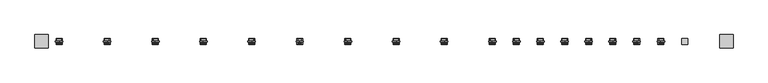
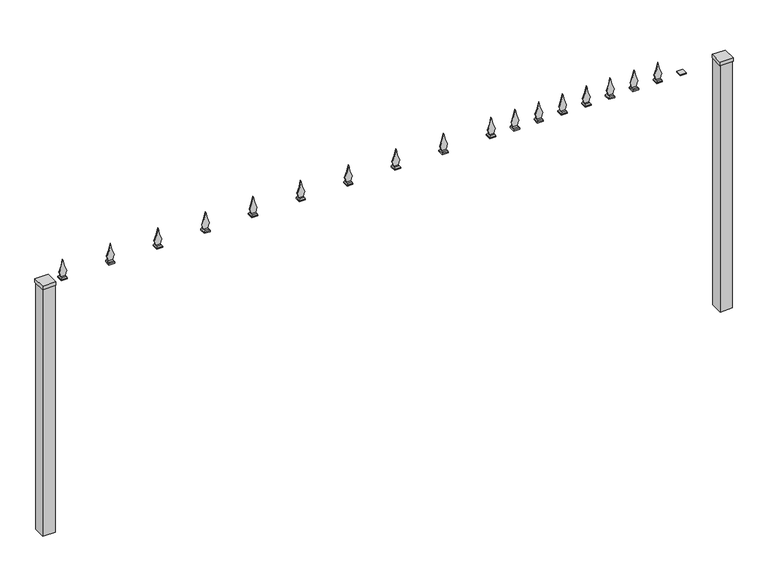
"""IFC4 building model written with IfcOpenShell, lengths in millimetres: geographic element geometry, Portail coulissant - 01 : Portail coulissant - 01."""

from ifc_helpers import new_model, si_unit, point, frame, frame_2d, origin, place, context, project, spatial, polyline, circle_curve, trimmed, segment, composite_curve, outline, extrude, faceted_brep, source, transform, mapped, element, save


def geographic_element_62fdb492(model_context):
    return source(origin(), model_context, "Body", "SolidModel", [
        extrude(outline(polyline([(1086.2264823, 12.0), (1086.2264823, -12.0), (1062.2264823, -12.0), (1062.2264823, 12.0), (1086.2264823, 12.0)])), frame((0.0, 0.0, 1080.0), z_axis=(0.0, 0.0, 1.0), x_axis=(1.0, 0.0, 0.0)), (0.0, 0.0, 1.0), 5.0),
        extrude(outline(composite_curve([segment(trimmed(circle_curve(frame_2d((1074.9252719, 881.9773887)), 87.884948), [point((1110.0, 962.5598156))], [point((1090.0, 968.5598156))], True, "CARTESIAN"), True, "CONTINUOUS"), segment(polyline([(1090.0, 968.5598156), (1090.0, 986.5598156)]), True, "CONTINUOUS"), segment(trimmed(circle_curve(frame_2d((1074.9252719, 1073.1422425)), 87.884948), [point((1090.0, 986.5598156))], [point((1110.0, 992.5598156))], True, "CARTESIAN"), True, "CONTINUOUS"), segment(trimmed(circle_curve(frame_2d((1184.2044665, 1149.0747041)), 173.2143562), [point((1110.0, 992.5598156))], [point((1160.0, 977.5598156))], True, "CARTESIAN"), True, "CONTINUOUS"), segment(trimmed(circle_curve(frame_2d((1184.2044665, 806.0449271)), 173.2143562), [point((1160.0, 977.5598156))], [point((1110.0, 962.5598156))], True, "CARTESIAN"), True, "CONTINUOUS")], self_intersect=False)), frame((0.0, -1.5, 0.0), z_axis=(0.0, 1.0, 0.0), x_axis=(0.0, 0.0, 1.0)), (0.0, 0.0, 1.0), 3.0),
        faceted_brep([(968.5598156, 9.0, 1090.0), (968.5598156, -9.0, 1090.0), (986.5598156, -9.0, 1090.0), (986.5598156, 9.0, 1090.0), (965.5598156, 12.0, 1085.0), (989.5598156, 12.0, 1085.0), (989.5598156, -12.0, 1085.0), (965.5598156, -12.0, 1085.0)], [[[0, 1, 2, 3]], [[4, 5, 6, 7]], [[4, 7, 1, 0]], [[7, 6, 2, 1]], [[6, 5, 3, 2]], [[5, 4, 0, 3]]]),
        extrude(outline(polyline([(989.5598156, 12.0), (989.5598156, -12.0), (965.5598156, -12.0), (965.5598156, 12.0), (989.5598156, 12.0)])), frame((0.0, 0.0, 1080.0), z_axis=(0.0, 0.0, 1.0), x_axis=(1.0, 0.0, 0.0)), (0.0, 0.0, 1.0), 5.0),
        extrude(outline(composite_curve([segment(trimmed(circle_curve(frame_2d((1074.9252719, 785.310722)), 87.884948), [point((1110.0, 865.8931489))], [point((1090.0, 871.8931489))], True, "CARTESIAN"), True, "CONTINUOUS"), segment(polyline([(1090.0, 871.8931489), (1090.0, 889.8931489)]), True, "CONTINUOUS"), segment(trimmed(circle_curve(frame_2d((1074.9252719, 976.4755759)), 87.884948), [point((1090.0, 889.8931489))], [point((1110.0, 895.8931489))], True, "CARTESIAN"), True, "CONTINUOUS"), segment(trimmed(circle_curve(frame_2d((1184.2044665, 1052.4080374)), 173.2143562), [point((1110.0, 895.8931489))], [point((1160.0, 880.8931489))], True, "CARTESIAN"), True, "CONTINUOUS"), segment(trimmed(circle_curve(frame_2d((1184.2044665, 709.3782604)), 173.2143562), [point((1160.0, 880.8931489))], [point((1110.0, 865.8931489))], True, "CARTESIAN"), True, "CONTINUOUS")], self_intersect=False)), frame((0.0, -1.5, 0.0), z_axis=(0.0, 1.0, 0.0), x_axis=(0.0, 0.0, 1.0)), (0.0, 0.0, 1.0), 3.0),
        faceted_brep([(871.8931489, 9.0, 1090.0), (871.8931489, -9.0, 1090.0), (889.8931489, -9.0, 1090.0), (889.8931489, 9.0, 1090.0), (868.8931489, 12.0, 1085.0), (892.8931489, 12.0, 1085.0), (892.8931489, -12.0, 1085.0), (868.8931489, -12.0, 1085.0)], [[[0, 1, 2, 3]], [[4, 5, 6, 7]], [[4, 7, 1, 0]], [[7, 6, 2, 1]], [[6, 5, 3, 2]], [[5, 4, 0, 3]]]),
        extrude(outline(polyline([(892.8931489, 12.0), (892.8931489, -12.0), (868.8931489, -12.0), (868.8931489, 12.0), (892.8931489, 12.0)])), frame((0.0, 0.0, 1080.0), z_axis=(0.0, 0.0, 1.0), x_axis=(1.0, 0.0, 0.0)), (0.0, 0.0, 1.0), 5.0),
        extrude(outline(composite_curve([segment(trimmed(circle_curve(frame_2d((1074.9252719, 688.6440554)), 87.884948), [point((1110.0, 769.2264823))], [point((1090.0, 775.2264823))], True, "CARTESIAN"), True, "CONTINUOUS"), segment(polyline([(1090.0, 775.2264823), (1090.0, 793.2264823)]), True, "CONTINUOUS"), segment(trimmed(circle_curve(frame_2d((1074.9252719, 879.8089092)), 87.884948), [point((1090.0, 793.2264823))], [point((1110.0, 799.2264823))], True, "CARTESIAN"), True, "CONTINUOUS"), segment(trimmed(circle_curve(frame_2d((1184.2044665, 955.7413708)), 173.2143562), [point((1110.0, 799.2264823))], [point((1160.0, 784.2264823))], True, "CARTESIAN"), True, "CONTINUOUS"), segment(trimmed(circle_curve(frame_2d((1184.2044665, 612.7115938)), 173.2143562), [point((1160.0, 784.2264823))], [point((1110.0, 769.2264823))], True, "CARTESIAN"), True, "CONTINUOUS")], self_intersect=False)), frame((0.0, -1.5, 0.0), z_axis=(0.0, 1.0, 0.0), x_axis=(0.0, 0.0, 1.0)), (0.0, 0.0, 1.0), 3.0),
        faceted_brep([(775.2264823, 9.0, 1090.0), (775.2264823, -9.0, 1090.0), (793.2264823, -9.0, 1090.0), (793.2264823, 9.0, 1090.0), (772.2264823, 12.0, 1085.0), (796.2264823, 12.0, 1085.0), (796.2264823, -12.0, 1085.0), (772.2264823, -12.0, 1085.0)], [[[0, 1, 2, 3]], [[4, 5, 6, 7]], [[4, 7, 1, 0]], [[7, 6, 2, 1]], [[6, 5, 3, 2]], [[5, 4, 0, 3]]]),
        extrude(outline(polyline([(796.2264823, 12.0), (796.2264823, -12.0), (772.2264823, -12.0), (772.2264823, 12.0), (796.2264823, 12.0)])), frame((0.0, 0.0, 1080.0), z_axis=(0.0, 0.0, 1.0), x_axis=(1.0, 0.0, 0.0)), (0.0, 0.0, 1.0), 5.0),
        extrude(outline(composite_curve([segment(trimmed(circle_curve(frame_2d((1074.9252719, 591.9773887)), 87.884948), [point((1110.0, 672.5598156))], [point((1090.0, 678.5598156))], True, "CARTESIAN"), True, "CONTINUOUS"), segment(polyline([(1090.0, 678.5598156), (1090.0, 696.5598156)]), True, "CONTINUOUS"), segment(trimmed(circle_curve(frame_2d((1074.9252719, 783.1422425)), 87.884948), [point((1090.0, 696.5598156))], [point((1110.0, 702.5598156))], True, "CARTESIAN"), True, "CONTINUOUS"), segment(trimmed(circle_curve(frame_2d((1184.2044665, 859.0747041)), 173.2143562), [point((1110.0, 702.5598156))], [point((1160.0, 687.5598156))], True, "CARTESIAN"), True, "CONTINUOUS"), segment(trimmed(circle_curve(frame_2d((1184.2044665, 516.0449271)), 173.2143562), [point((1160.0, 687.5598156))], [point((1110.0, 672.5598156))], True, "CARTESIAN"), True, "CONTINUOUS")], self_intersect=False)), frame((0.0, -1.5, 0.0), z_axis=(0.0, 1.0, 0.0), x_axis=(0.0, 0.0, 1.0)), (0.0, 0.0, 1.0), 3.0),
        faceted_brep([(678.5598156, 9.0, 1090.0), (678.5598156, -9.0, 1090.0), (696.5598156, -9.0, 1090.0), (696.5598156, 9.0, 1090.0), (675.5598156, 12.0, 1085.0), (699.5598156, 12.0, 1085.0), (699.5598156, -12.0, 1085.0), (675.5598156, -12.0, 1085.0)], [[[0, 1, 2, 3]], [[4, 5, 6, 7]], [[4, 7, 1, 0]], [[7, 6, 2, 1]], [[6, 5, 3, 2]], [[5, 4, 0, 3]]]),
        extrude(outline(polyline([(699.5598156, 12.0), (699.5598156, -12.0), (675.5598156, -12.0), (675.5598156, 12.0), (699.5598156, 12.0)])), frame((0.0, 0.0, 1080.0), z_axis=(0.0, 0.0, 1.0), x_axis=(1.0, 0.0, 0.0)), (0.0, 0.0, 1.0), 5.0),
        extrude(outline(composite_curve([segment(trimmed(circle_curve(frame_2d((1074.9252719, 495.310722)), 87.884948), [point((1110.0, 575.8931489))], [point((1090.0, 581.8931489))], True, "CARTESIAN"), True, "CONTINUOUS"), segment(polyline([(1090.0, 581.8931489), (1090.0, 599.8931489)]), True, "CONTINUOUS"), segment(trimmed(circle_curve(frame_2d((1074.9252719, 686.4755759)), 87.884948), [point((1090.0, 599.8931489))], [point((1110.0, 605.8931489))], True, "CARTESIAN"), True, "CONTINUOUS"), segment(trimmed(circle_curve(frame_2d((1184.2044665, 762.4080374)), 173.2143562), [point((1110.0, 605.8931489))], [point((1160.0, 590.8931489))], True, "CARTESIAN"), True, "CONTINUOUS"), segment(trimmed(circle_curve(frame_2d((1184.2044665, 419.3782604)), 173.2143562), [point((1160.0, 590.8931489))], [point((1110.0, 575.8931489))], True, "CARTESIAN"), True, "CONTINUOUS")], self_intersect=False)), frame((0.0, -1.5, 0.0), z_axis=(0.0, 1.0, 0.0), x_axis=(0.0, 0.0, 1.0)), (0.0, 0.0, 1.0), 3.0),
        faceted_brep([(581.8931489, 9.0, 1090.0), (581.8931489, -9.0, 1090.0), (599.8931489, -9.0, 1090.0), (599.8931489, 9.0, 1090.0), (578.8931489, 12.0, 1085.0), (602.8931489, 12.0, 1085.0), (602.8931489, -12.0, 1085.0), (578.8931489, -12.0, 1085.0)], [[[0, 1, 2, 3]], [[4, 5, 6, 7]], [[4, 7, 1, 0]], [[7, 6, 2, 1]], [[6, 5, 3, 2]], [[5, 4, 0, 3]]]),
        extrude(outline(polyline([(602.8931489, 12.0), (602.8931489, -12.0), (578.8931489, -12.0), (578.8931489, 12.0), (602.8931489, 12.0)])), frame((0.0, 0.0, 1080.0), z_axis=(0.0, 0.0, 1.0), x_axis=(1.0, 0.0, 0.0)), (0.0, 0.0, 1.0), 5.0),
        extrude(outline(composite_curve([segment(trimmed(circle_curve(frame_2d((1074.9252719, 398.6440554)), 87.884948), [point((1110.0, 479.2264823))], [point((1090.0, 485.2264823))], True, "CARTESIAN"), True, "CONTINUOUS"), segment(polyline([(1090.0, 485.2264823), (1090.0, 503.2264823)]), True, "CONTINUOUS"), segment(trimmed(circle_curve(frame_2d((1074.9252719, 589.8089092)), 87.884948), [point((1090.0, 503.2264823))], [point((1110.0, 509.2264823))], True, "CARTESIAN"), True, "CONTINUOUS"), segment(trimmed(circle_curve(frame_2d((1184.2044665, 665.7413708)), 173.2143562), [point((1110.0, 509.2264823))], [point((1160.0, 494.2264823))], True, "CARTESIAN"), True, "CONTINUOUS"), segment(trimmed(circle_curve(frame_2d((1184.2044665, 322.7115938)), 173.2143562), [point((1160.0, 494.2264823))], [point((1110.0, 479.2264823))], True, "CARTESIAN"), True, "CONTINUOUS")], self_intersect=False)), frame((0.0, -1.5, 0.0), z_axis=(0.0, 1.0, 0.0), x_axis=(0.0, 0.0, 1.0)), (0.0, 0.0, 1.0), 3.0),
        faceted_brep([(485.2264823, 9.0, 1090.0), (485.2264823, -9.0, 1090.0), (503.2264823, -9.0, 1090.0), (503.2264823, 9.0, 1090.0), (482.2264823, 12.0, 1085.0), (506.2264823, 12.0, 1085.0), (506.2264823, -12.0, 1085.0), (482.2264823, -12.0, 1085.0)], [[[0, 1, 2, 3]], [[4, 5, 6, 7]], [[4, 7, 1, 0]], [[7, 6, 2, 1]], [[6, 5, 3, 2]], [[5, 4, 0, 3]]]),
        extrude(outline(polyline([(506.2264823, 12.0), (506.2264823, -12.0), (482.2264823, -12.0), (482.2264823, 12.0), (506.2264823, 12.0)])), frame((0.0, 0.0, 1080.0), z_axis=(0.0, 0.0, 1.0), x_axis=(1.0, 0.0, 0.0)), (0.0, 0.0, 1.0), 5.0),
        extrude(outline(composite_curve([segment(trimmed(circle_curve(frame_2d((1074.9252719, 301.9773887)), 87.884948), [point((1110.0, 382.5598156))], [point((1090.0, 388.5598156))], True, "CARTESIAN"), True, "CONTINUOUS"), segment(polyline([(1090.0, 388.5598156), (1090.0, 406.5598156)]), True, "CONTINUOUS"), segment(trimmed(circle_curve(frame_2d((1074.9252719, 493.1422425)), 87.884948), [point((1090.0, 406.5598156))], [point((1110.0, 412.5598156))], True, "CARTESIAN"), True, "CONTINUOUS"), segment(trimmed(circle_curve(frame_2d((1184.2044665, 569.0747041)), 173.2143562), [point((1110.0, 412.5598156))], [point((1160.0, 397.5598156))], True, "CARTESIAN"), True, "CONTINUOUS"), segment(trimmed(circle_curve(frame_2d((1184.2044665, 226.0449271)), 173.2143562), [point((1160.0, 397.5598156))], [point((1110.0, 382.5598156))], True, "CARTESIAN"), True, "CONTINUOUS")], self_intersect=False)), frame((0.0, -1.5, 0.0), z_axis=(0.0, 1.0, 0.0), x_axis=(0.0, 0.0, 1.0)), (0.0, 0.0, 1.0), 3.0),
        faceted_brep([(388.5598156, 9.0, 1090.0), (388.5598156, -9.0, 1090.0), (406.5598156, -9.0, 1090.0), (406.5598156, 9.0, 1090.0), (385.5598156, 12.0, 1085.0), (409.5598156, 12.0, 1085.0), (409.5598156, -12.0, 1085.0), (385.5598156, -12.0, 1085.0)], [[[0, 1, 2, 3]], [[4, 5, 6, 7]], [[4, 7, 1, 0]], [[7, 6, 2, 1]], [[6, 5, 3, 2]], [[5, 4, 0, 3]]]),
        extrude(outline(polyline([(409.5598156, 12.0), (409.5598156, -12.0), (385.5598156, -12.0), (385.5598156, 12.0), (409.5598156, 12.0)])), frame((0.0, 0.0, 1080.0), z_axis=(0.0, 0.0, 1.0), x_axis=(1.0, 0.0, 0.0)), (0.0, 0.0, 1.0), 5.0),
        extrude(outline(composite_curve([segment(trimmed(circle_curve(frame_2d((1074.9252719, 205.310722)), 87.884948), [point((1110.0, 285.8931489))], [point((1090.0, 291.8931489))], True, "CARTESIAN"), True, "CONTINUOUS"), segment(polyline([(1090.0, 291.8931489), (1090.0, 309.8931489)]), True, "CONTINUOUS"), segment(trimmed(circle_curve(frame_2d((1074.9252719, 396.4755759)), 87.884948), [point((1090.0, 309.8931489))], [point((1110.0, 315.8931489))], True, "CARTESIAN"), True, "CONTINUOUS"), segment(trimmed(circle_curve(frame_2d((1184.2044665, 472.4080374)), 173.2143562), [point((1110.0, 315.8931489))], [point((1160.0, 300.8931489))], True, "CARTESIAN"), True, "CONTINUOUS"), segment(trimmed(circle_curve(frame_2d((1184.2044665, 129.3782604)), 173.2143562), [point((1160.0, 300.8931489))], [point((1110.0, 285.8931489))], True, "CARTESIAN"), True, "CONTINUOUS")], self_intersect=False)), frame((0.0, -1.5, 0.0), z_axis=(0.0, 1.0, 0.0), x_axis=(0.0, 0.0, 1.0)), (0.0, 0.0, 1.0), 3.0),
        faceted_brep([(291.8931489, 9.0, 1090.0), (291.8931489, -9.0, 1090.0), (309.8931489, -9.0, 1090.0), (309.8931489, 9.0, 1090.0), (288.8931489, 12.0, 1085.0), (312.8931489, 12.0, 1085.0), (312.8931489, -12.0, 1085.0), (288.8931489, -12.0, 1085.0)], [[[0, 1, 2, 3]], [[4, 5, 6, 7]], [[4, 7, 1, 0]], [[7, 6, 2, 1]], [[6, 5, 3, 2]], [[5, 4, 0, 3]]]),
        extrude(outline(polyline([(312.8931489, 12.0), (312.8931489, -12.0), (288.8931489, -12.0), (288.8931489, 12.0), (312.8931489, 12.0)])), frame((0.0, 0.0, 1080.0), z_axis=(0.0, 0.0, 1.0), x_axis=(1.0, 0.0, 0.0)), (0.0, 0.0, 1.0), 5.0),
        extrude(outline(composite_curve([segment(trimmed(circle_curve(frame_2d((1074.9252719, 11.9773887)), 87.884948), [point((1110.0, 92.5598156))], [point((1090.0, 98.5598156))], True, "CARTESIAN"), True, "CONTINUOUS"), segment(polyline([(1090.0, 98.5598156), (1090.0, 116.5598156)]), True, "CONTINUOUS"), segment(trimmed(circle_curve(frame_2d((1074.9252719, 203.1422425)), 87.884948), [point((1090.0, 116.5598156))], [point((1110.0, 122.5598156))], True, "CARTESIAN"), True, "CONTINUOUS"), segment(trimmed(circle_curve(frame_2d((1184.2044665, 279.0747041)), 173.2143562), [point((1110.0, 122.5598156))], [point((1160.0, 107.5598156))], True, "CARTESIAN"), True, "CONTINUOUS"), segment(trimmed(circle_curve(frame_2d((1184.2044665, -63.9550729)), 173.2143562), [point((1160.0, 107.5598156))], [point((1110.0, 92.5598156))], True, "CARTESIAN"), True, "CONTINUOUS")], self_intersect=False)), frame((0.0, -1.5, 0.0), z_axis=(0.0, 1.0, 0.0), x_axis=(0.0, 0.0, 1.0)), (0.0, 0.0, 1.0), 3.0),
        faceted_brep([(98.5598156, 9.0, 1090.0), (98.5598156, -9.0, 1090.0), (116.5598156, -9.0, 1090.0), (116.5598156, 9.0, 1090.0), (95.5598156, 12.0, 1085.0), (119.5598156, 12.0, 1085.0), (119.5598156, -12.0, 1085.0), (95.5598156, -12.0, 1085.0)], [[[0, 1, 2, 3]], [[4, 5, 6, 7]], [[4, 7, 1, 0]], [[7, 6, 2, 1]], [[6, 5, 3, 2]], [[5, 4, 0, 3]]]),
        extrude(outline(polyline([(119.5598156, 12.0), (119.5598156, -12.0), (95.5598156, -12.0), (95.5598156, 12.0), (119.5598156, 12.0)])), frame((0.0, 0.0, 1080.0), z_axis=(0.0, 0.0, 1.0), x_axis=(1.0, 0.0, 0.0)), (0.0, 0.0, 1.0), 5.0),
        extrude(outline(composite_curve([segment(trimmed(circle_curve(frame_2d((1074.9252719, -181.3559446)), 87.884948), [point((1110.0, -100.7735177))], [point((1090.0, -94.7735177))], True, "CARTESIAN"), True, "CONTINUOUS"), segment(polyline([(1090.0, -94.7735177), (1090.0, -76.7735177)]), True, "CONTINUOUS"), segment(trimmed(circle_curve(frame_2d((1074.9252719, 9.8089092)), 87.884948), [point((1090.0, -76.7735177))], [point((1110.0, -70.7735177))], True, "CARTESIAN"), True, "CONTINUOUS"), segment(trimmed(circle_curve(frame_2d((1184.2044665, 85.7413708)), 173.2143562), [point((1110.0, -70.7735177))], [point((1160.0, -85.7735177))], True, "CARTESIAN"), True, "CONTINUOUS"), segment(trimmed(circle_curve(frame_2d((1184.2044665, -257.2884062)), 173.2143562), [point((1160.0, -85.7735177))], [point((1110.0, -100.7735177))], True, "CARTESIAN"), True, "CONTINUOUS")], self_intersect=False)), frame((0.0, -1.5, 0.0), z_axis=(0.0, 1.0, 0.0), x_axis=(0.0, 0.0, 1.0)), (0.0, 0.0, 1.0), 3.0),
        faceted_brep([(-94.7735177, 9.0, 1090.0), (-94.7735177, -9.0, 1090.0), (-76.7735177, -9.0, 1090.0), (-76.7735177, 9.0, 1090.0), (-97.7735177, 12.0, 1085.0), (-73.7735177, 12.0, 1085.0), (-73.7735177, -12.0, 1085.0), (-97.7735177, -12.0, 1085.0)], [[[0, 1, 2, 3]], [[4, 5, 6, 7]], [[4, 7, 1, 0]], [[7, 6, 2, 1]], [[6, 5, 3, 2]], [[5, 4, 0, 3]]]),
        extrude(outline(polyline([(-73.7735177, 12.0), (-73.7735177, -12.0), (-97.7735177, -12.0), (-97.7735177, 12.0), (-73.7735177, 12.0)])), frame((0.0, 0.0, 1080.0), z_axis=(0.0, 0.0, 1.0), x_axis=(1.0, 0.0, 0.0)), (0.0, 0.0, 1.0), 5.0),
        extrude(outline(composite_curve([segment(trimmed(circle_curve(frame_2d((1074.9252719, -374.689278)), 87.884948), [point((1110.0, -294.1068511))], [point((1090.0, -288.1068511))], True, "CARTESIAN"), True, "CONTINUOUS"), segment(polyline([(1090.0, -288.1068511), (1090.0, -270.1068511)]), True, "CONTINUOUS"), segment(trimmed(circle_curve(frame_2d((1074.9252719, -183.5244241)), 87.884948), [point((1090.0, -270.1068511))], [point((1110.0, -264.1068511))], True, "CARTESIAN"), True, "CONTINUOUS"), segment(trimmed(circle_curve(frame_2d((1184.2044665, -107.5919626)), 173.2143562), [point((1110.0, -264.1068511))], [point((1160.0, -279.1068511))], True, "CARTESIAN"), True, "CONTINUOUS"), segment(trimmed(circle_curve(frame_2d((1184.2044665, -450.6217396)), 173.2143562), [point((1160.0, -279.1068511))], [point((1110.0, -294.1068511))], True, "CARTESIAN"), True, "CONTINUOUS")], self_intersect=False)), frame((0.0, -1.5, 0.0), z_axis=(0.0, 1.0, 0.0), x_axis=(0.0, 0.0, 1.0)), (0.0, 0.0, 1.0), 3.0),
        faceted_brep([(-288.1068511, 9.0, 1090.0), (-288.1068511, -9.0, 1090.0), (-270.1068511, -9.0, 1090.0), (-270.1068511, 9.0, 1090.0), (-291.1068511, 12.0, 1085.0), (-267.1068511, 12.0, 1085.0), (-267.1068511, -12.0, 1085.0), (-291.1068511, -12.0, 1085.0)], [[[0, 1, 2, 3]], [[4, 5, 6, 7]], [[4, 7, 1, 0]], [[7, 6, 2, 1]], [[6, 5, 3, 2]], [[5, 4, 0, 3]]]),
        extrude(outline(polyline([(-267.1068511, 12.0), (-267.1068511, -12.0), (-291.1068511, -12.0), (-291.1068511, 12.0), (-267.1068511, 12.0)])), frame((0.0, 0.0, 1080.0), z_axis=(0.0, 0.0, 1.0), x_axis=(1.0, 0.0, 0.0)), (0.0, 0.0, 1.0), 5.0),
        extrude(outline(composite_curve([segment(trimmed(circle_curve(frame_2d((1074.9252719, -568.0226113)), 87.884948), [point((1110.0, -487.4401844))], [point((1090.0, -481.4401844))], True, "CARTESIAN"), True, "CONTINUOUS"), segment(polyline([(1090.0, -481.4401844), (1090.0, -463.4401844)]), True, "CONTINUOUS"), segment(trimmed(circle_curve(frame_2d((1074.9252719, -376.8577575)), 87.884948), [point((1090.0, -463.4401844))], [point((1110.0, -457.4401844))], True, "CARTESIAN"), True, "CONTINUOUS"), segment(trimmed(circle_curve(frame_2d((1184.2044665, -300.9252959)), 173.2143562), [point((1110.0, -457.4401844))], [point((1160.0, -472.4401844))], True, "CARTESIAN"), True, "CONTINUOUS"), segment(trimmed(circle_curve(frame_2d((1184.2044665, -643.9550729)), 173.2143562), [point((1160.0, -472.4401844))], [point((1110.0, -487.4401844))], True, "CARTESIAN"), True, "CONTINUOUS")], self_intersect=False)), frame((0.0, -1.5, 0.0), z_axis=(0.0, 1.0, 0.0), x_axis=(0.0, 0.0, 1.0)), (0.0, 0.0, 1.0), 3.0),
        faceted_brep([(-481.4401844, 9.0, 1090.0), (-481.4401844, -9.0, 1090.0), (-463.4401844, -9.0, 1090.0), (-463.4401844, 9.0, 1090.0), (-484.4401844, 12.0, 1085.0), (-460.4401844, 12.0, 1085.0), (-460.4401844, -12.0, 1085.0), (-484.4401844, -12.0, 1085.0)], [[[0, 1, 2, 3]], [[4, 5, 6, 7]], [[4, 7, 1, 0]], [[7, 6, 2, 1]], [[6, 5, 3, 2]], [[5, 4, 0, 3]]]),
        extrude(outline(polyline([(-460.4401844, 12.0), (-460.4401844, -12.0), (-484.4401844, -12.0), (-484.4401844, 12.0), (-460.4401844, 12.0)])), frame((0.0, 0.0, 1080.0), z_axis=(0.0, 0.0, 1.0), x_axis=(1.0, 0.0, 0.0)), (0.0, 0.0, 1.0), 5.0),
        extrude(outline(composite_curve([segment(trimmed(circle_curve(frame_2d((1074.9252719, -761.3559446)), 87.884948), [point((1110.0, -680.7735177))], [point((1090.0, -674.7735177))], True, "CARTESIAN"), True, "CONTINUOUS"), segment(polyline([(1090.0, -674.7735177), (1090.0, -656.7735177)]), True, "CONTINUOUS"), segment(trimmed(circle_curve(frame_2d((1074.9252719, -570.1910908)), 87.884948), [point((1090.0, -656.7735177))], [point((1110.0, -650.7735177))], True, "CARTESIAN"), True, "CONTINUOUS"), segment(trimmed(circle_curve(frame_2d((1184.2044665, -494.2586292)), 173.2143562), [point((1110.0, -650.7735177))], [point((1160.0, -665.7735177))], True, "CARTESIAN"), True, "CONTINUOUS"), segment(trimmed(circle_curve(frame_2d((1184.2044665, -837.2884062)), 173.2143562), [point((1160.0, -665.7735177))], [point((1110.0, -680.7735177))], True, "CARTESIAN"), True, "CONTINUOUS")], self_intersect=False)), frame((0.0, -1.5, 0.0), z_axis=(0.0, 1.0, 0.0), x_axis=(0.0, 0.0, 1.0)), (0.0, 0.0, 1.0), 3.0),
        faceted_brep([(-674.7735177, 9.0, 1090.0), (-674.7735177, -9.0, 1090.0), (-656.7735177, -9.0, 1090.0), (-656.7735177, 9.0, 1090.0), (-677.7735177, 12.0, 1085.0), (-653.7735177, 12.0, 1085.0), (-653.7735177, -12.0, 1085.0), (-677.7735177, -12.0, 1085.0)], [[[0, 1, 2, 3]], [[4, 5, 6, 7]], [[4, 7, 1, 0]], [[7, 6, 2, 1]], [[6, 5, 3, 2]], [[5, 4, 0, 3]]]),
        extrude(outline(polyline([(-653.7735177, 12.0), (-653.7735177, -12.0), (-677.7735177, -12.0), (-677.7735177, 12.0), (-653.7735177, 12.0)])), frame((0.0, 0.0, 1080.0), z_axis=(0.0, 0.0, 1.0), x_axis=(1.0, 0.0, 0.0)), (0.0, 0.0, 1.0), 5.0),
        extrude(outline(composite_curve([segment(trimmed(circle_curve(frame_2d((1074.9252719, -954.689278)), 87.884948), [point((1110.0, -874.1068511))], [point((1090.0, -868.1068511))], True, "CARTESIAN"), True, "CONTINUOUS"), segment(polyline([(1090.0, -868.1068511), (1090.0, -850.1068511)]), True, "CONTINUOUS"), segment(trimmed(circle_curve(frame_2d((1074.9252719, -763.5244241)), 87.884948), [point((1090.0, -850.1068511))], [point((1110.0, -844.1068511))], True, "CARTESIAN"), True, "CONTINUOUS"), segment(trimmed(circle_curve(frame_2d((1184.2044665, -687.5919626)), 173.2143562), [point((1110.0, -844.1068511))], [point((1160.0, -859.1068511))], True, "CARTESIAN"), True, "CONTINUOUS"), segment(trimmed(circle_curve(frame_2d((1184.2044665, -1030.6217396)), 173.2143562), [point((1160.0, -859.1068511))], [point((1110.0, -874.1068511))], True, "CARTESIAN"), True, "CONTINUOUS")], self_intersect=False)), frame((0.0, -1.5, 0.0), z_axis=(0.0, 1.0, 0.0), x_axis=(0.0, 0.0, 1.0)), (0.0, 0.0, 1.0), 3.0),
        faceted_brep([(-868.1068511, 9.0, 1090.0), (-868.1068511, -9.0, 1090.0), (-850.1068511, -9.0, 1090.0), (-850.1068511, 9.0, 1090.0), (-871.1068511, 12.0, 1085.0), (-847.1068511, 12.0, 1085.0), (-847.1068511, -12.0, 1085.0), (-871.1068511, -12.0, 1085.0)], [[[0, 1, 2, 3]], [[4, 5, 6, 7]], [[4, 7, 1, 0]], [[7, 6, 2, 1]], [[6, 5, 3, 2]], [[5, 4, 0, 3]]]),
        extrude(outline(polyline([(-847.1068511, 12.0), (-847.1068511, -12.0), (-871.1068511, -12.0), (-871.1068511, 12.0), (-847.1068511, 12.0)])), frame((0.0, 0.0, 1080.0), z_axis=(0.0, 0.0, 1.0), x_axis=(1.0, 0.0, 0.0)), (0.0, 0.0, 1.0), 5.0),
        extrude(outline(composite_curve([segment(trimmed(circle_curve(frame_2d((1074.9252719, -1148.0226113)), 87.884948), [point((1110.0, -1067.4401844))], [point((1090.0, -1061.4401844))], True, "CARTESIAN"), True, "CONTINUOUS"), segment(polyline([(1090.0, -1061.4401844), (1090.0, -1043.4401844)]), True, "CONTINUOUS"), segment(trimmed(circle_curve(frame_2d((1074.9252719, -956.8577575)), 87.884948), [point((1090.0, -1043.4401844))], [point((1110.0, -1037.4401844))], True, "CARTESIAN"), True, "CONTINUOUS"), segment(trimmed(circle_curve(frame_2d((1184.2044665, -880.9252959)), 173.2143562), [point((1110.0, -1037.4401844))], [point((1160.0, -1052.4401844))], True, "CARTESIAN"), True, "CONTINUOUS"), segment(trimmed(circle_curve(frame_2d((1184.2044665, -1223.9550729)), 173.2143562), [point((1160.0, -1052.4401844))], [point((1110.0, -1067.4401844))], True, "CARTESIAN"), True, "CONTINUOUS")], self_intersect=False)), frame((0.0, -1.5, 0.0), z_axis=(0.0, 1.0, 0.0), x_axis=(0.0, 0.0, 1.0)), (0.0, 0.0, 1.0), 3.0),
        faceted_brep([(-1061.4401844, 9.0, 1090.0), (-1061.4401844, -9.0, 1090.0), (-1043.4401844, -9.0, 1090.0), (-1043.4401844, 9.0, 1090.0), (-1064.4401844, 12.0, 1085.0), (-1040.4401844, 12.0, 1085.0), (-1040.4401844, -12.0, 1085.0), (-1064.4401844, -12.0, 1085.0)], [[[0, 1, 2, 3]], [[4, 5, 6, 7]], [[4, 7, 1, 0]], [[7, 6, 2, 1]], [[6, 5, 3, 2]], [[5, 4, 0, 3]]]),
        extrude(outline(polyline([(-1040.4401844, 12.0), (-1040.4401844, -12.0), (-1064.4401844, -12.0), (-1064.4401844, 12.0), (-1040.4401844, 12.0)])), frame((0.0, 0.0, 1080.0), z_axis=(0.0, 0.0, 1.0), x_axis=(1.0, 0.0, 0.0)), (0.0, 0.0, 1.0), 5.0),
        extrude(outline(composite_curve([segment(trimmed(circle_curve(frame_2d((1074.9252719, -1341.3559446)), 87.884948), [point((1110.0, -1260.7735177))], [point((1090.0, -1254.7735177))], True, "CARTESIAN"), True, "CONTINUOUS"), segment(polyline([(1090.0, -1254.7735177), (1090.0, -1236.7735177)]), True, "CONTINUOUS"), segment(trimmed(circle_curve(frame_2d((1074.9252719, -1150.1910908)), 87.884948), [point((1090.0, -1236.7735177))], [point((1110.0, -1230.7735177))], True, "CARTESIAN"), True, "CONTINUOUS"), segment(trimmed(circle_curve(frame_2d((1184.2044665, -1074.2586292)), 173.2143562), [point((1110.0, -1230.7735177))], [point((1160.0, -1245.7735177))], True, "CARTESIAN"), True, "CONTINUOUS"), segment(trimmed(circle_curve(frame_2d((1184.2044665, -1417.2884062)), 173.2143562), [point((1160.0, -1245.7735177))], [point((1110.0, -1260.7735177))], True, "CARTESIAN"), True, "CONTINUOUS")], self_intersect=False)), frame((0.0, -1.5, 0.0), z_axis=(0.0, 1.0, 0.0), x_axis=(0.0, 0.0, 1.0)), (0.0, 0.0, 1.0), 3.0),
        faceted_brep([(-1254.7735177, 9.0, 1090.0), (-1254.7735177, -9.0, 1090.0), (-1236.7735177, -9.0, 1090.0), (-1236.7735177, 9.0, 1090.0), (-1257.7735177, 12.0, 1085.0), (-1233.7735177, 12.0, 1085.0), (-1233.7735177, -12.0, 1085.0), (-1257.7735177, -12.0, 1085.0)], [[[0, 1, 2, 3]], [[4, 5, 6, 7]], [[4, 7, 1, 0]], [[7, 6, 2, 1]], [[6, 5, 3, 2]], [[5, 4, 0, 3]]]),
        extrude(outline(polyline([(-1233.7735177, 12.0), (-1233.7735177, -12.0), (-1257.7735177, -12.0), (-1257.7735177, 12.0), (-1233.7735177, 12.0)])), frame((0.0, 0.0, 1080.0), z_axis=(0.0, 0.0, 1.0), x_axis=(1.0, 0.0, 0.0)), (0.0, 0.0, 1.0), 5.0),
        extrude(outline(composite_curve([segment(trimmed(circle_curve(frame_2d((1074.9252719, -1534.689278)), 87.884948), [point((1110.0, -1454.1068511))], [point((1090.0, -1448.1068511))], True, "CARTESIAN"), True, "CONTINUOUS"), segment(polyline([(1090.0, -1448.1068511), (1090.0, -1430.1068511)]), True, "CONTINUOUS"), segment(trimmed(circle_curve(frame_2d((1074.9252719, -1343.5244241)), 87.884948), [point((1090.0, -1430.1068511))], [point((1110.0, -1424.1068511))], True, "CARTESIAN"), True, "CONTINUOUS"), segment(trimmed(circle_curve(frame_2d((1184.2044665, -1267.5919626)), 173.2143562), [point((1110.0, -1424.1068511))], [point((1160.0, -1439.1068511))], True, "CARTESIAN"), True, "CONTINUOUS"), segment(trimmed(circle_curve(frame_2d((1184.2044665, -1610.6217396)), 173.2143562), [point((1160.0, -1439.1068511))], [point((1110.0, -1454.1068511))], True, "CARTESIAN"), True, "CONTINUOUS")], self_intersect=False)), frame((0.0, -1.5, 0.0), z_axis=(0.0, 1.0, 0.0), x_axis=(0.0, 0.0, 1.0)), (0.0, 0.0, 1.0), 3.0),
        faceted_brep([(-1448.1068511, 9.0, 1090.0), (-1448.1068511, -9.0, 1090.0), (-1430.1068511, -9.0, 1090.0), (-1430.1068511, 9.0, 1090.0), (-1451.1068511, 12.0, 1085.0), (-1427.1068511, 12.0, 1085.0), (-1427.1068511, -12.0, 1085.0), (-1451.1068511, -12.0, 1085.0)], [[[0, 1, 2, 3]], [[4, 5, 6, 7]], [[4, 7, 1, 0]], [[7, 6, 2, 1]], [[6, 5, 3, 2]], [[5, 4, 0, 3]]]),
        extrude(outline(polyline([(-1427.1068511, 12.0), (-1427.1068511, -12.0), (-1451.1068511, -12.0), (-1451.1068511, 12.0), (-1427.1068511, 12.0)])), frame((0.0, 0.0, 1080.0), z_axis=(0.0, 0.0, 1.0), x_axis=(1.0, 0.0, 0.0)), (0.0, 0.0, 1.0), 5.0),
        extrude(outline(polyline([(-1484.1068511, -25.0), (-1534.1068511, -25.0), (-1534.1068511, 25.0), (-1484.1068511, 25.0), (-1484.1068511, -25.0)])), frame((0.0, 0.0, 20.0), z_axis=(0.0, 0.0, 1.0), x_axis=(1.0, 0.0, 0.0)), (0.0, 0.0, 1.0), 1060.0),
        extrude(outline(polyline([(1265.8931489, -25.0), (1215.8931489, -25.0), (1215.8931489, 25.0), (1265.8931489, 25.0), (1265.8931489, -25.0)])), frame((0.0, 0.0, 20.0), z_axis=(0.0, 0.0, 1.0), x_axis=(1.0, 0.0, 0.0)), (0.0, 0.0, 1.0), 1060.0),
        extrude(outline(polyline([(-1482.1068511, 27.0), (-1482.1068511, -27.0), (-1536.1068511, -27.0), (-1536.1068511, 27.0), (-1482.1068511, 27.0)])), frame((0.0, 0.0, 1080.0), z_axis=(0.0, 0.0, 1.0), x_axis=(1.0, 0.0, 0.0)), (0.0, 0.0, 1.0), 15.0),
        extrude(outline(polyline([(1267.8931489, 27.0), (1267.8931489, -27.0), (1213.8931489, -27.0), (1213.8931489, 27.0), (1267.8931489, 27.0)])), frame((0.0, 0.0, 1080.0), z_axis=(0.0, 0.0, 1.0), x_axis=(1.0, 0.0, 0.0)), (0.0, 0.0, 1.0), 15.0),
    ])


if __name__ == "__main__":
    model = new_model("IFC4")
    model_context = context("Model", 3, world=origin())
    ifc_project = project(units=[si_unit("LENGTHUNIT", "METRE", prefix="MILLI")], contexts=[model_context])
    site = spatial("IfcSite", under=ifc_project)
    building = spatial("IfcBuilding", under=site)
    placement = place(None, origin())
    geographic_element_shape = geographic_element_62fdb492(model_context)
    element("IfcGeographicElement", 1, ObjectType="Portail coulissant - 01 : Portail coulissant - 01", at=placement, inside=building, context=model_context, shape_type="MappedRepresentation", body=[
        mapped(geographic_element_shape, transform((0.0, 0.0, 0.0), x_axis=(1.0, 0.0, 0.0), y_axis=(0.0, 1.0, 0.0), z_axis=(0.0, 0.0, 1.0))),
    ])
    save(model, "model.ifc")
